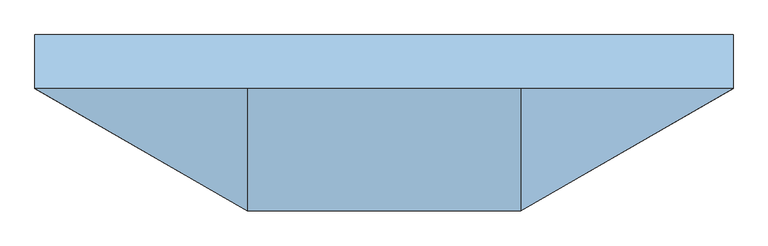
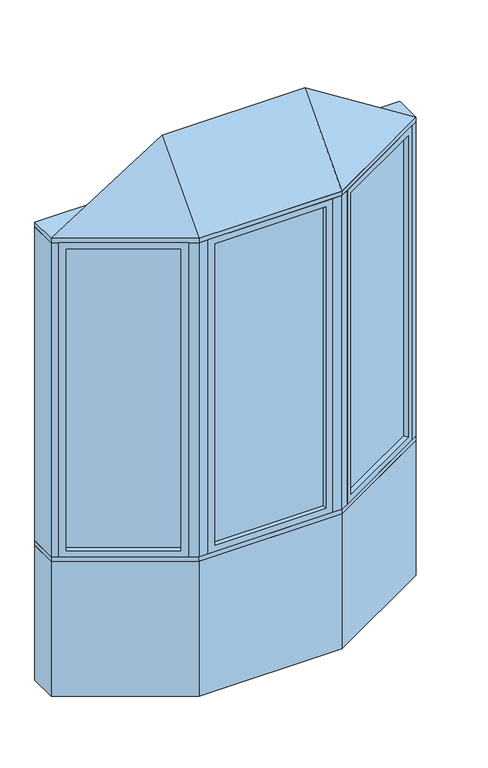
"""IFC4 building model written with IfcOpenShell, lengths in millimetres: window geometry, Pollard_Windows_Tudor Casement Bows and Bays : AML-BAY 30 AFR0518-10-600."""

from ifc_helpers import new_model, si_unit, frame, origin, origin_with_axes, place, context, project, spatial, polyline, outline, extrude, faceted_brep, source, transform, mapped, element, save


def window_53f94c20(model_context):
    return source(origin(), model_context, "Body", "SolidModel", [
        extrude(outline(polyline([(926.612102, -82.0482469), (438.3834764, -363.9271754), (435.8434764, -359.5277664), (924.072102, -77.6488379), (926.612102, -82.0482469)])), frame((0.0, 0.0, 823.1628), z_axis=(0.0, 0.0, 1.0), x_axis=(1.0, 0.0, 0.0)), (0.0, 0.0, 1.0), 1753.6704),
        faceted_brep([(915.6135794, -88.3982469, 835.8628), (928.3135794, -110.3952922, 835.8628), (928.3135794, -110.3952922, 2564.1332), (915.6135794, -88.3982469, 2564.1332), (924.072102, -77.6488379, 823.1628), (926.612102, -82.0482469, 823.1628), (926.612102, -82.0482469, 2576.8332), (924.072102, -77.6488379, 2576.8332), (900.3735794, -62.0017926, 835.8628), (913.0735794, -83.9988379, 835.8628), (913.0735794, -83.9988379, 2564.1332), (900.3735794, -62.0017926, 2564.1332), (959.3734073, -92.4628922, 799.998), (931.4334073, -44.0693926, 799.998), (931.4334073, -44.0693926, 2599.998), (959.3734073, -92.4628922, 2599.998), (462.081999, -379.5742207, 2564.1332), (449.381999, -357.5771754, 2564.1332), (438.3834764, -363.9271754, 2576.8332), (435.8434764, -359.5277664, 2576.8332), (446.841999, -353.1777664, 2564.1332), (434.141999, -331.1807211, 2564.1332), (403.0821711, -349.1131211, 2599.998), (431.0221711, -397.5066207, 2599.998), (462.081999, -379.5742207, 835.8628), (449.381999, -357.5771754, 835.8628), (438.3834764, -363.9271754, 823.1628), (435.8434764, -359.5277664, 823.1628), (446.841999, -353.1777664, 835.8628), (434.141999, -331.1807211, 835.8628), (403.0821711, -349.1131211, 799.998), (431.0221711, -397.5066207, 799.998)], [[[0, 1, 2, 3]], [[4, 5, 6, 7]], [[8, 9, 10, 11]], [[12, 13, 14, 15]], [[3, 2, 16, 17]], [[7, 6, 18, 19]], [[11, 10, 20, 21]], [[15, 14, 22, 23]], [[17, 16, 24, 25]], [[19, 18, 26, 27]], [[21, 20, 28, 29]], [[23, 22, 30, 31]], [[25, 24, 1, 0]], [[5, 26, 18, 6], [3, 17, 25, 0]], [[27, 26, 5, 4]], [[7, 19, 27, 4], [9, 28, 20, 10]], [[29, 28, 9, 8]], [[13, 30, 22, 14], [11, 21, 29, 8]], [[31, 30, 13, 12]], [[15, 23, 31, 12], [1, 24, 16, 2]]]),
        extrude(outline(polyline([(-438.3834764, -363.9271754), (-926.612102, -82.0482469), (-924.072102, -77.6488379), (-435.8434764, -359.5277664), (-438.3834764, -363.9271754)])), frame((0.0, 0.0, 823.1628), z_axis=(0.0, 0.0, 1.0), x_axis=(1.0, 0.0, 0.0)), (0.0, 0.0, 1.0), 1753.6704),
        faceted_brep([(-446.841999, -353.1777664, 2564.1332), (-434.141999, -331.1807211, 2564.1332), (-434.141999, -331.1807211, 835.8628), (-446.841999, -353.1777664, 835.8628), (-438.3834764, -363.9271754, 2576.8332), (-435.8434764, -359.5277664, 2576.8332), (-435.8434764, -359.5277664, 823.1628), (-438.3834764, -363.9271754, 823.1628), (-462.081999, -379.5742207, 2564.1332), (-449.381999, -357.5771754, 2564.1332), (-449.381999, -357.5771754, 835.8628), (-462.081999, -379.5742207, 835.8628), (-403.0821711, -349.1131211, 2599.998), (-431.0221711, -397.5066207, 2599.998), (-431.0221711, -397.5066207, 799.998), (-403.0821711, -349.1131211, 799.998), (-900.3735794, -62.0017926, 835.8628), (-913.0735794, -83.9988379, 835.8628), (-924.072102, -77.6488379, 823.1628), (-926.612102, -82.0482469, 823.1628), (-915.6135794, -88.3982469, 835.8628), (-928.3135794, -110.3952922, 835.8628), (-959.3734073, -92.4628922, 799.998), (-931.4334073, -44.0693926, 799.998), (-900.3735794, -62.0017926, 2564.1332), (-913.0735794, -83.9988379, 2564.1332), (-924.072102, -77.6488379, 2576.8332), (-926.612102, -82.0482469, 2576.8332), (-915.6135794, -88.3982469, 2564.1332), (-928.3135794, -110.3952922, 2564.1332), (-959.3734073, -92.4628922, 2599.998), (-931.4334073, -44.0693926, 2599.998)], [[[0, 1, 2, 3]], [[4, 5, 6, 7]], [[8, 9, 10, 11]], [[12, 13, 14, 15]], [[3, 2, 16, 17]], [[7, 6, 18, 19]], [[11, 10, 20, 21]], [[15, 14, 22, 23]], [[17, 16, 24, 25]], [[19, 18, 26, 27]], [[21, 20, 28, 29]], [[23, 22, 30, 31]], [[15, 23, 31, 12], [1, 24, 16, 2]], [[25, 24, 1, 0]], [[5, 26, 18, 6], [3, 17, 25, 0]], [[27, 26, 5, 4]], [[7, 19, 27, 4], [9, 28, 20, 10]], [[29, 28, 9, 8]], [[13, 30, 22, 14], [11, 21, 29, 8]], [[31, 30, 13, 12]]]),
        extrude(outline(polyline([(314.5561009, -397.1066207), (-314.5561009, -397.1066207), (-314.5561009, -392.0266207), (314.5561009, -392.0266207), (314.5561009, -397.1066207)])), frame((0.0, 0.0, 823.1628), z_axis=(0.0, 0.0, 1.0), x_axis=(1.0, 0.0, 0.0)), (0.0, 0.0, 1.0), 1753.6704),
        faceted_brep([(301.8561009, -397.1066207, 835.8628), (301.8561009, -422.5066207, 835.8628), (301.8561009, -422.5066207, 2564.1332), (301.8561009, -397.1066207, 2564.1332), (314.5561009, -392.0266207, 823.1628), (314.5561009, -397.1066207, 823.1628), (314.5561009, -397.1066207, 2576.8332), (314.5561009, -392.0266207, 2576.8332), (301.8561009, -366.6266207, 835.8628), (301.8561009, -392.0266207, 835.8628), (301.8561009, -392.0266207, 2564.1332), (301.8561009, -366.6266207, 2564.1332), (337.7209009, -422.5066207, 799.998), (337.7209009, -366.6266207, 799.998), (337.7209009, -366.6266207, 2599.998), (337.7209009, -422.5066207, 2599.998), (-301.8561009, -422.5066207, 2564.1332), (-301.8561009, -397.1066207, 2564.1332), (-314.5561009, -397.1066207, 2576.8332), (-314.5561009, -392.0266207, 2576.8332), (-301.8561009, -392.0266207, 2564.1332), (-301.8561009, -366.6266207, 2564.1332), (-337.7209009, -366.6266207, 2599.998), (-337.7209009, -422.5066207, 2599.998), (-301.8561009, -422.5066207, 835.8628), (-301.8561009, -397.1066207, 835.8628), (-314.5561009, -397.1066207, 823.1628), (-314.5561009, -392.0266207, 823.1628), (-301.8561009, -392.0266207, 835.8628), (-301.8561009, -366.6266207, 835.8628), (-337.7209009, -366.6266207, 799.998), (-337.7209009, -422.5066207, 799.998)], [[[0, 1, 2, 3]], [[4, 5, 6, 7]], [[8, 9, 10, 11]], [[12, 13, 14, 15]], [[3, 2, 16, 17]], [[7, 6, 18, 19]], [[11, 10, 20, 21]], [[15, 14, 22, 23]], [[17, 16, 24, 25]], [[19, 18, 26, 27]], [[21, 20, 28, 29]], [[23, 22, 30, 31]], [[15, 23, 31, 12], [1, 24, 16, 2]], [[25, 24, 1, 0]], [[5, 26, 18, 6], [3, 17, 25, 0]], [[27, 26, 5, 4]], [[7, 19, 27, 4], [9, 28, 20, 10]], [[29, 28, 9, 8]], [[13, 30, 22, 14], [11, 21, 29, 8]], [[31, 30, 13, 12]]]),
        faceted_brep([(990.0, -74.7806207, 2625.398), (387.7209009, -422.5066207, 2625.398), (-387.7209009, -422.5066207, 2625.398), (-990.0, -74.7806207, 2625.398), (-387.7209009, -74.7806207, 3006.398), (387.7209009, -74.7806207, 3006.398)], [[[0, 1, 2, 3]], [[3, 2, 4]], [[2, 1, 5, 4]], [[1, 0, 5]], [[0, 3, 4, 5]]]),
        extrude(outline(polyline([(-990.0, 77.6193793), (990.0, 77.6193793), (990.0, -74.7806207), (387.7209009, -422.5066207), (-387.7209009, -422.5066207), (-990.0, -74.7806207), (-990.0, 77.6193793)])), frame((0.0, 0.0, 2599.998), z_axis=(0.0, 0.0, 1.0), x_axis=(1.0, 0.0, 0.0)), (0.0, 0.0, 1.0), 25.4),
        extrude(outline(polyline([(-990.0, -74.7806207), (-990.0, 77.6193793), (-949.1645431, 77.6193793), (-949.1645431, -74.7806207), (-959.3734073, -92.4628922), (-990.0, -74.7806207)])), frame((0.0, 0.0, 799.998), z_axis=(0.0, 0.0, 1.0), x_axis=(1.0, 0.0, 0.0)), (0.0, 0.0, 1.0), 1800.0),
        extrude(outline(polyline([(990.0, 77.6193793), (990.0, -74.7806207), (959.3734073, -92.4628922), (949.1645431, -74.7806207), (949.1645431, 77.6193793), (990.0, 77.6193793)])), frame((0.0, 0.0, 799.998), z_axis=(0.0, 0.0, 1.0), x_axis=(1.0, 0.0, 0.0)), (0.0, 0.0, 1.0), 1800.0),
        extrude(outline(polyline([(387.7209009, -422.5066207), (337.7209009, -422.5066207), (337.7209009, -372.5066207), (374.3234413, -372.5066207), (406.0221711, -354.2053505), (431.0221711, -397.5066207), (387.7209009, -422.5066207)])), frame((0.0, 0.0, 799.998), z_axis=(0.0, 0.0, 1.0), x_axis=(1.0, 0.0, 0.0)), (0.0, 0.0, 1.0), 1800.0),
        extrude(outline(polyline([(-387.7209009, -422.5066207), (-431.0221711, -397.5066207), (-406.0221711, -354.2053505), (-374.3234413, -372.5066207), (-337.7209009, -372.5066207), (-337.7209009, -422.5066207), (-387.7209009, -422.5066207)])), frame((0.0, 0.0, 799.998), z_axis=(0.0, 0.0, 1.0), x_axis=(1.0, 0.0, 0.0)), (0.0, 0.0, 1.0), 1800.0),
        extrude(outline(polyline([(-387.7209009, -422.5066207), (-990.0, -74.7806207), (-990.0, 77.6193793), (-949.1645431, 77.6193793), (-346.885444, -270.1066207), (346.885444, -270.1066207), (949.1645431, 77.6193793), (990.0, 77.6193793), (990.0, -74.7806207), (387.7209009, -422.5066207), (-387.7209009, -422.5066207)])), frame((0.0, 0.0, 774.598), z_axis=(0.0, 0.0, 1.0), x_axis=(1.0, 0.0, 0.0)), (0.0, 0.0, 1.0), 25.4),
        extrude(outline(polyline([(-990.0, -74.7806207), (-990.0, 77.6193793), (-949.1645431, 77.6193793), (-346.885444, -270.1066207), (346.885444, -270.1066207), (949.1645431, 77.6193793), (990.0, 77.6193793), (990.0, -74.7806207), (387.7209009, -422.5066207), (-387.7209009, -422.5066207), (-990.0, -74.7806207)])), origin_with_axes(), (0.0, 0.0, 1.0), 774.598),
    ])


if __name__ == "__main__":
    model = new_model("IFC4")
    model_context = context("Model", 3, world=origin())
    ifc_project = project(units=[si_unit("LENGTHUNIT", "METRE", prefix="MILLI")], contexts=[model_context])
    site = spatial("IfcSite", under=ifc_project)
    building = spatial("IfcBuilding", under=site)
    placement = place(None, origin())
    window_shape = window_53f94c20(model_context)
    element("IfcWindow", 1, ObjectType="Pollard_Windows_Tudor Casement Bows and Bays : AML-BAY 30 AFR0518-10-600", at=placement, inside=building, context=model_context, shape_type="MappedRepresentation", body=[
        mapped(window_shape, transform((0.0, 0.0, 0.0), x_axis=(1.0, 0.0, 0.0), y_axis=(0.0, 1.0, 0.0), z_axis=(0.0, 0.0, 1.0))),
    ])
    save(model, "model.ifc")
